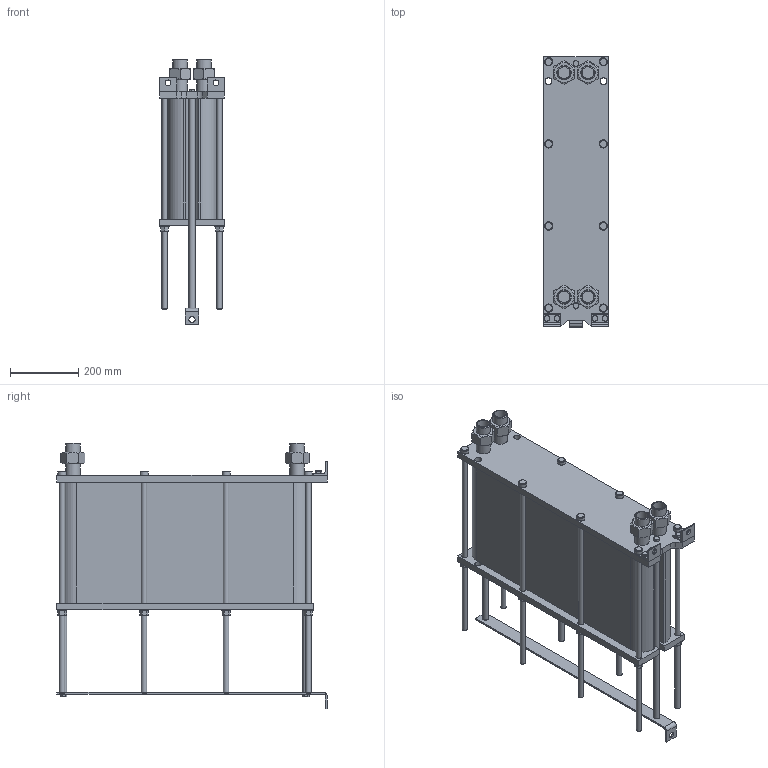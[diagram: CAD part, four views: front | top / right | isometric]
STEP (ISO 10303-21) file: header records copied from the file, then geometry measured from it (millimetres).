
FILE_DESCRIPTION(/* description */ (''),/* implementation_level */ '2;1');
FILE_NAME(/* name */ 'C:\Users\zhuro\Desktop\ENCO\TO\ЭН-008\ЭН-0,5-008-114-1.stp',/* time_stamp */ '2022-06-06T10:56:15+03:00',/* author */ ('zhuro'),/* organization */ (''),/* preprocessor_version */ 'ST-DEVELOPER v18.1',/* originating_system */ 'Autodesk Inventor 2022',/* authorisation */ '');
FILE_SCHEMA (('AUTOMOTIVE_DESIGN { 1 0 10303 214 3 1 1 }'));
Length unit declared in the file: millimetre
Products named in the file (1): ЭН-0,5-008-114-1
Bounding box: 190 x 790 x 776.2 mm (x, y, z)
Volume: 43054163 mm3; surface area: 2139948.4 mm2
Topology: 40 solids, 40 shells, 428 faces, 924 edges, 606 vertices
Faces by surface type: plane 273, cylinder 109, cone 40, torus 6
Full cylindrical faces by diameter (mm): 12 x6, 14 x2, 16 x20, 17 x8, 18 x19, 20 x5, 24 x8, 28 x8, 34.3 x8, 42.3 x8
Entity records: 15843 total; most frequent: CARTESIAN_POINT 5991, DIRECTION 1984, ORIENTED_EDGE 1848, EDGE_CURVE 924, AXIS2_PLACEMENT_3D 715, VERTEX_POINT 606, LINE 554, VECTOR 554
